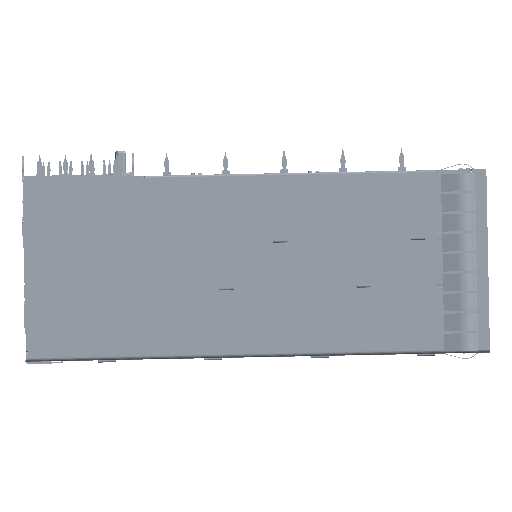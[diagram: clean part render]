
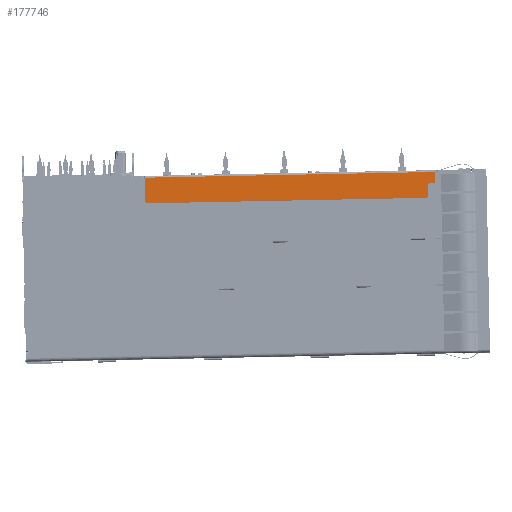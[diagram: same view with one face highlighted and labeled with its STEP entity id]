
A CAD part, left-side view. The second image highlights one B-rep face of the part: STEP entity #177746.
In plain terms, the highlighted planar face has unit normal (1, 0, 0).
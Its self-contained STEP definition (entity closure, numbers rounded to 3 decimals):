
#4286 = CARTESIAN_POINT ( 'NONE',  ( -28.05, -49.592, 20.827 ) ) ;
#22267 = CARTESIAN_POINT ( 'NONE',  ( -28.05, -30.999, 22.203 ) ) ;
#29827 = CARTESIAN_POINT ( 'NONE',  ( -28.05, -50.596, 22.864 ) ) ;
#43674 = CARTESIAN_POINT ( 'NONE',  ( -28.05, -49.53, 20.82 ) ) ;
#48494 = B_SPLINE_CURVE_WITH_KNOTS ( 'NONE', 3,
 ( #81384, #236810, #159977, #433098, #199204, #472323, #238518, #4286, #277782, #43674 ),
 .UNSPECIFIED., .F., .F.,
 ( 4, 2, 2, 2, 4 ),
 ( 0., 0.5, 0.625, 0.75, 1. ),
 .UNSPECIFIED. ) ;
#49281 = LINE ( 'NONE', #380939, #141023 ) ;
#54268 = CARTESIAN_POINT ( 'NONE',  ( -28.05, -11.287, 20.063 ) ) ;
#69281 = CARTESIAN_POINT ( 'NONE',  ( -28.05, -50.522, 22.84 ) ) ;
#71456 = EDGE_CURVE ( 'NONE', #103681, #121801, #205678, .T. ) ;
#74987 = CARTESIAN_POINT ( 'NONE',  ( -28.05, -49.744, 22.64 ) ) ;
#77108 = VECTOR ( 'NONE', #363065, 1000. ) ;
#81384 = CARTESIAN_POINT ( 'NONE',  ( -28.05, -49.775, 21.074 ) ) ;
#95997 = EDGE_CURVE ( 'NONE', #301431, #204571, #284955, .T. ) ;
#100127 = CARTESIAN_POINT ( 'NONE',  ( -28.05, -49.775, 21.074 ) ) ;
#101728 = VECTOR ( 'NONE', #151492, 1000. ) ;
#103681 = VERTEX_POINT ( 'NONE', #226855 ) ;
#113671 = B_SPLINE_CURVE_WITH_KNOTS ( 'NONE', 3,
 ( #144485, #339166, #458512, #224684, #497859, #263957, #29827, #303221, #69281, #342544 ),
 .UNSPECIFIED., .F., .F.,
 ( 4, 2, 2, 2, 4 ),
 ( 0., 0.5, 0.625, 0.75, 1. ),
 .UNSPECIFIED. ) ;
#121801 = VERTEX_POINT ( 'NONE', #158959 ) ;
#124397 = B_SPLINE_CURVE_WITH_KNOTS ( 'NONE', 3,
 ( #348291, #74987, #153564, #426712, #192793, #465897 ),
 .UNSPECIFIED., .F., .F.,
 ( 4, 2, 4 ),
 ( 0., 0.5, 1. ),
 .UNSPECIFIED. ) ;
#125582 = LINE ( 'NONE', #218223, #424982 ) ;
#140273 = DIRECTION ( 'NONE',  ( 0., 0., -1. ) ) ;
#141023 = VECTOR ( 'NONE', #498682, 1000. ) ;
#142324 = VERTEX_POINT ( 'NONE', #400619 ) ;
#144485 = CARTESIAN_POINT ( 'NONE',  ( -28.05, -50.735, 23.094 ) ) ;
#151492 = DIRECTION ( 'NONE',  ( 0., -1., 0.02 ) ) ;
#153244 = VERTEX_POINT ( 'NONE', #456413 ) ;
#153564 = CARTESIAN_POINT ( 'NONE',  ( -28.05, -49.769, 22.705 ) ) ;
#158959 = CARTESIAN_POINT ( 'NONE',  ( -28.05, -50.49, 22.839 ) ) ;
#159977 = CARTESIAN_POINT ( 'NONE',  ( -28.05, -49.751, 20.945 ) ) ;
#161166 = VECTOR ( 'NONE', #317326, 1000. ) ;
#177746 = ADVANCED_FACE ( 'NONE', ( #356589 ), #334968, .T. ) ;
#183582 = EDGE_CURVE ( 'NONE', #301431, #338955, #125582, .T. ) ;
#192793 = CARTESIAN_POINT ( 'NONE',  ( -28.05, -49.925, 22.828 ) ) ;
#199204 = CARTESIAN_POINT ( 'NONE',  ( -28.05, -49.68, 20.873 ) ) ;
#204571 = VERTEX_POINT ( 'NONE', #487495 ) ;
#205678 = LINE ( 'NONE', #306863, #101728 ) ;
#208358 = DIRECTION ( 'NONE',  ( 0., 0.02, 1. ) ) ;
#218223 = CARTESIAN_POINT ( 'NONE',  ( -28.05, -30.408, 20.441 ) ) ;
#218377 = ORIENTED_EDGE ( 'NONE', *, *, #457802, .F. ) ;
#224684 = CARTESIAN_POINT ( 'NONE',  ( -28.05, -50.654, 22.903 ) ) ;
#226855 = CARTESIAN_POINT ( 'NONE',  ( -28.05, -49.99, 22.829 ) ) ;
#236810 = CARTESIAN_POINT ( 'NONE',  ( -28.05, -49.776, 21.006 ) ) ;
#238518 = CARTESIAN_POINT ( 'NONE',  ( -28.05, -49.636, 20.845 ) ) ;
#241855 = EDGE_CURVE ( 'NONE', #424535, #153244, #349726, .T. ) ;
#244278 = EDGE_CURVE ( 'NONE', #142324, #121801, #113671, .T. ) ;
#245236 = CARTESIAN_POINT ( 'NONE',  ( -28.05, -11.25, 21.938 ) ) ;
#257505 = DIRECTION ( 'NONE',  ( 0., -1., 0.02 ) ) ;
#263957 = CARTESIAN_POINT ( 'NONE',  ( -28.05, -50.613, 22.873 ) ) ;
#277782 = CARTESIAN_POINT ( 'NONE',  ( -28.05, -49.562, 20.82 ) ) ;
#278043 = CARTESIAN_POINT ( 'NONE',  ( -28.05, -10.428, 23.547 ) ) ;
#283998 = VERTEX_POINT ( 'NONE', #372977 ) ;
#284955 = LINE ( 'NONE', #245236, #77108 ) ;
#299329 = ORIENTED_EDGE ( 'NONE', *, *, #183582, .F. ) ;
#301431 = VERTEX_POINT ( 'NONE', #54268 ) ;
#303221 = CARTESIAN_POINT ( 'NONE',  ( -28.05, -50.553, 22.846 ) ) ;
#306863 = CARTESIAN_POINT ( 'NONE',  ( -28.05, -50.24, 22.834 ) ) ;
#308248 = ORIENTED_EDGE ( 'NONE', *, *, #422988, .T. ) ;
#310187 = ORIENTED_EDGE ( 'NONE', *, *, #317643, .F. ) ;
#317326 = DIRECTION ( 'NONE',  ( 0., -1., 0.02 ) ) ;
#317643 = EDGE_CURVE ( 'NONE', #142324, #283998, #49281, .T. ) ;
#334968 = PLANE ( 'NONE',  #355036 ) ;
#337480 = VECTOR ( 'NONE', #208358, 1000. ) ;
#338955 = VERTEX_POINT ( 'NONE', #427332 ) ;
#339166 = CARTESIAN_POINT ( 'NONE',  ( -28.05, -50.736, 23.025 ) ) ;
#342544 = CARTESIAN_POINT ( 'NONE',  ( -28.05, -50.49, 22.839 ) ) ;
#348291 = CARTESIAN_POINT ( 'NONE',  ( -28.05, -49.745, 22.574 ) ) ;
#349726 = LINE ( 'NONE', #442217, #337480 ) ;
#354321 = EDGE_LOOP ( 'NONE', ( #299329, #421951, #308248, #310187, #395307, #433623, #218377, #465917, #495812 ) ) ;
#355036 = AXIS2_PLACEMENT_3D ( 'NONE', #22267, #374283, #140273 ) ;
#356589 = FACE_OUTER_BOUND ( 'NONE', #354321, .T. ) ;
#363065 = DIRECTION ( 'NONE',  ( 0., 0.02, 1. ) ) ;
#372977 = CARTESIAN_POINT ( 'NONE',  ( -28.05, -50.71, 24.344 ) ) ;
#374283 = DIRECTION ( 'NONE',  ( 1., 0., 0. ) ) ;
#380939 = CARTESIAN_POINT ( 'NONE',  ( -28.05, -50.723, 23.719 ) ) ;
#383966 = EDGE_CURVE ( 'NONE', #424535, #338955, #48494, .T. ) ;
#395307 = ORIENTED_EDGE ( 'NONE', *, *, #244278, .T. ) ;
#400619 = CARTESIAN_POINT ( 'NONE',  ( -28.05, -50.735, 23.094 ) ) ;
#421951 = ORIENTED_EDGE ( 'NONE', *, *, #95997, .T. ) ;
#422988 = EDGE_CURVE ( 'NONE', #204571, #283998, #472685, .T. ) ;
#424535 = VERTEX_POINT ( 'NONE', #100127 ) ;
#424982 = VECTOR ( 'NONE', #257505, 1000. ) ;
#426712 = CARTESIAN_POINT ( 'NONE',  ( -28.05, -49.86, 22.8 ) ) ;
#427332 = CARTESIAN_POINT ( 'NONE',  ( -28.05, -49.53, 20.82 ) ) ;
#433098 = CARTESIAN_POINT ( 'NONE',  ( -28.05, -49.693, 20.884 ) ) ;
#433623 = ORIENTED_EDGE ( 'NONE', *, *, #71456, .F. ) ;
#442217 = CARTESIAN_POINT ( 'NONE',  ( -28.05, -49.76, 21.824 ) ) ;
#456413 = CARTESIAN_POINT ( 'NONE',  ( -28.05, -49.745, 22.574 ) ) ;
#457802 = EDGE_CURVE ( 'NONE', #153244, #103681, #124397, .T. ) ;
#458512 = CARTESIAN_POINT ( 'NONE',  ( -28.05, -50.712, 22.965 ) ) ;
#465897 = CARTESIAN_POINT ( 'NONE',  ( -28.05, -49.99, 22.829 ) ) ;
#465917 = ORIENTED_EDGE ( 'NONE', *, *, #241855, .F. ) ;
#472323 = CARTESIAN_POINT ( 'NONE',  ( -28.05, -49.653, 20.854 ) ) ;
#472685 = LINE ( 'NONE', #278043, #161166 ) ;
#487495 = CARTESIAN_POINT ( 'NONE',  ( -28.05, -11.218, 23.562 ) ) ;
#495812 = ORIENTED_EDGE ( 'NONE', *, *, #383966, .T. ) ;
#497859 = CARTESIAN_POINT ( 'NONE',  ( -28.05, -50.641, 22.893 ) ) ;
#498682 = DIRECTION ( 'NONE',  ( 0., 0.02, 1. ) ) ;
